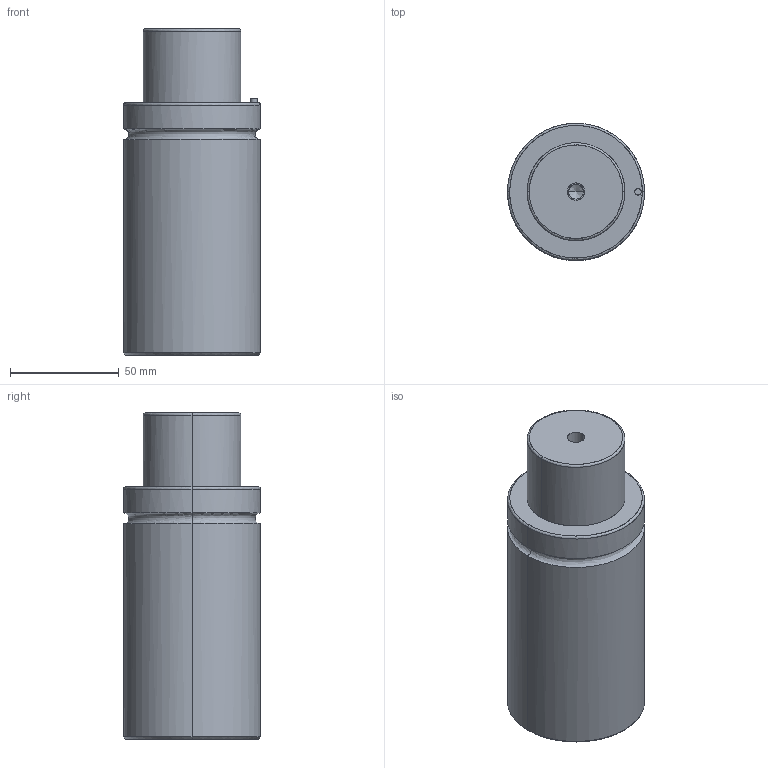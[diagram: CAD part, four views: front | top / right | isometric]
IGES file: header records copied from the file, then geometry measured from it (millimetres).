
Global section: file name: E:\UnigraphicsGraphicData\MISUMI_PRESS-PARTS\IGES\3d_gsm63-32_03910_r00.igs; native system: NX V5.0; preprocessor: UGS NX IGES V5.0; author: MISUMI; date: 20110105.160818; units: millimetre
Bounding box: 63 x 62.98 x 150 mm (x, y, z)
Surface area: 35686.1 mm2 (no closed solid volume)
Topology: 0 solids, 0 shells, 48 faces, 336 edges, 328 vertices
Faces by surface type: bspline 48
